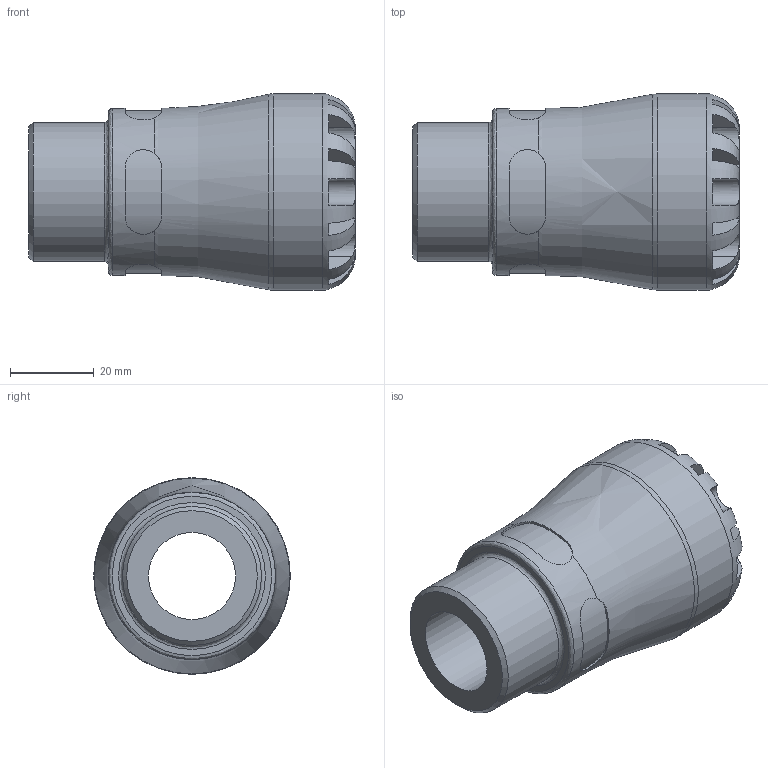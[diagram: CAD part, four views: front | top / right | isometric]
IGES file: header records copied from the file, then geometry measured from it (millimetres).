
Global section: file name: 100200025010_190200025010.ipt; native system: Autodesk Inventor 2015; preprocessor: unknown; author: KIM; date: 20170727.143942; units: millimetre
Bounding box: 78 x 47 x 47 mm (x, y, z)
Volume: 66301.8 mm3; surface area: 18679.8 mm2
Topology: 1 solids, 1 shells, 100 faces, 268 edges, 172 vertices
Faces by surface type: plane 60, revolution 24, cylinder 15, cone 1
Full cylindrical faces by diameter (mm): 33.249 x1, 39.95 x1, 47 x1
